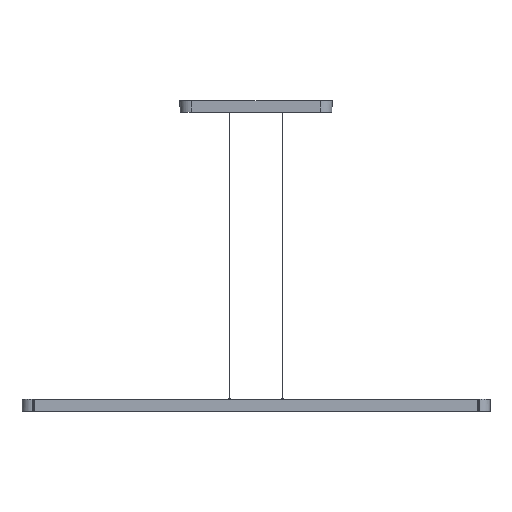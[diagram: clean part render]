
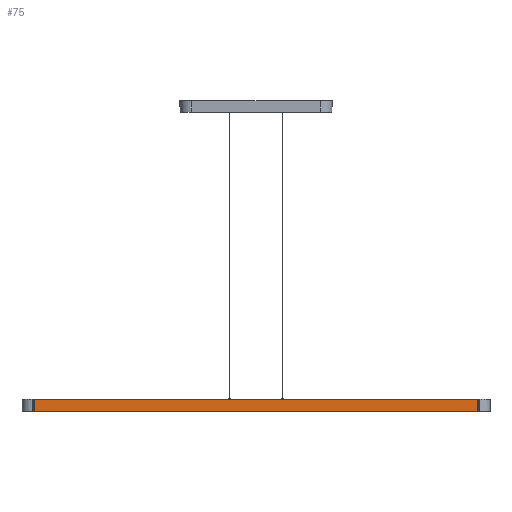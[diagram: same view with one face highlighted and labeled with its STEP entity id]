
A CAD part, front view. The second image highlights one B-rep face of the part: STEP entity #75.
In plain terms, the highlighted planar face has unit normal (0, -1, 0).
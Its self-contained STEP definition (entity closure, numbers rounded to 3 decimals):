
#75=ADVANCED_FACE($,(#197),#1639,.T.);
#197=FACE_OUTER_BOUND($,#321,.T.);
#321=EDGE_LOOP($,(#654,#655,#656,#657));
#654=ORIENTED_EDGE($,*,*,#1158,.T.);
#655=ORIENTED_EDGE($,*,*,#1107,.F.);
#656=ORIENTED_EDGE($,*,*,#1159,.T.);
#657=ORIENTED_EDGE($,*,*,#1120,.F.);
#1107=EDGE_CURVE($,#1393,#1394,#1854,.T.);
#1120=EDGE_CURVE($,#1405,#1406,#1867,.T.);
#1158=EDGE_CURVE($,#1405,#1394,#1900,.T.);
#1159=EDGE_CURVE($,#1393,#1406,#1901,.T.);
#1393=VERTEX_POINT($,#2888);
#1394=VERTEX_POINT($,#2889);
#1405=VERTEX_POINT($,#2900);
#1406=VERTEX_POINT($,#2901);
#1639=PLANE($,#2085);
#1854=B_SPLINE_CURVE_WITH_KNOTS($,1,(#2593,#2594),.UNSPECIFIED.,.F.,.F.,
(2,2),(-1427.,0.),.UNSPECIFIED.);
#1867=B_SPLINE_CURVE_WITH_KNOTS($,1,(#2651,#2652),.UNSPECIFIED.,.F.,.F.,
(2,2),(0.,1427.),.UNSPECIFIED.);
#1900=B_SPLINE_CURVE_WITH_KNOTS($,1,(#2783,#2784),.UNSPECIFIED.,.F.,.F.,
(2,2),(0.,40.),.UNSPECIFIED.);
#1901=B_SPLINE_CURVE_WITH_KNOTS($,1,(#2785,#2786),.UNSPECIFIED.,.F.,.F.,
(2,2),(-40.,0.),.UNSPECIFIED.);
#2085=AXIS2_PLACEMENT_3D($,#2858,#2138,$);
#2138=DIRECTION($,(0.,-1.,0.));
#2593=CARTESIAN_POINT($,(713.5,-34.,-1000.));
#2594=CARTESIAN_POINT($,(-713.5,-34.,-1000.));
#2651=CARTESIAN_POINT($,(-713.5,-34.,-960.));
#2652=CARTESIAN_POINT($,(713.5,-34.,-960.));
#2783=CARTESIAN_POINT($,(-713.5,-34.,-960.));
#2784=CARTESIAN_POINT($,(-713.5,-34.,-1000.));
#2785=CARTESIAN_POINT($,(713.5,-34.,-1000.));
#2786=CARTESIAN_POINT($,(713.5,-34.,-960.));
#2858=CARTESIAN_POINT($,(713.5,-34.,-1000.));
#2888=CARTESIAN_POINT($,(713.5,-34.,-1000.));
#2889=CARTESIAN_POINT($,(-713.5,-34.,-1000.));
#2900=CARTESIAN_POINT($,(-713.5,-34.,-960.));
#2901=CARTESIAN_POINT($,(713.5,-34.,-960.));
